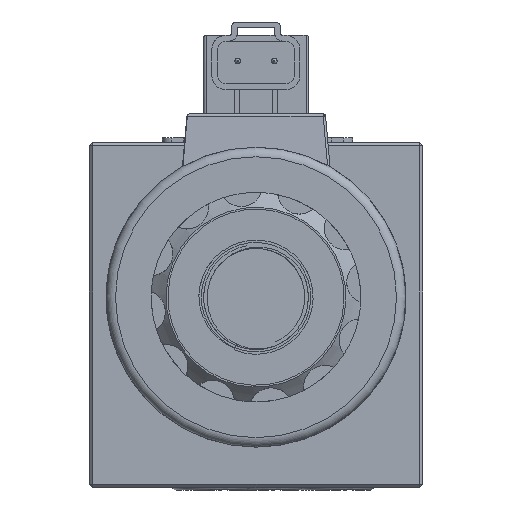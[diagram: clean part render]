
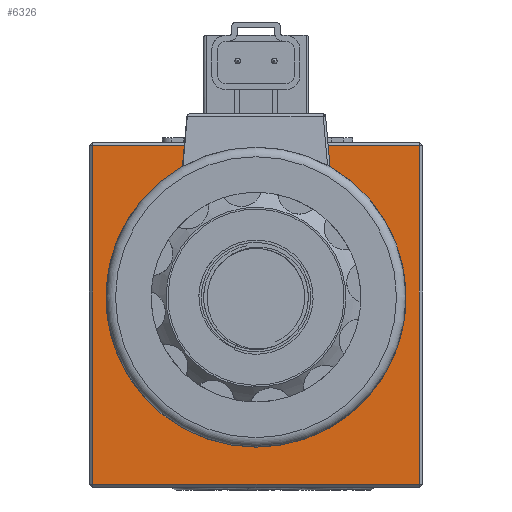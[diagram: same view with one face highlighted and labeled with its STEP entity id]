
A CAD part, left-side view. The second image highlights one B-rep face of the part: STEP entity #6326.
In plain terms, the highlighted planar face has unit normal (-1, 0, 0).
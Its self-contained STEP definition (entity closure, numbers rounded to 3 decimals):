
#3047=LINE('',#30580,#4169);
#3048=LINE('',#30583,#4170);
#3049=LINE('',#30585,#4171);
#3050=LINE('',#30587,#4172);
#4169=VECTOR('',#21099,1.);
#4170=VECTOR('',#21100,1.);
#4171=VECTOR('',#21101,1.);
#4172=VECTOR('',#21102,1.);
#6326=ADVANCED_FACE('',(#8113,#8114,#8115,#8116),#7077,.T.);
#7077=PLANE('',#18429);
#8113=FACE_BOUND('',#9053,.T.);
#8114=FACE_BOUND('',#9054,.T.);
#8115=FACE_BOUND('',#9055,.T.);
#8116=FACE_BOUND('',#9056,.T.);
#9053=EDGE_LOOP('',(#11152));
#9054=EDGE_LOOP('',(#11153));
#9055=EDGE_LOOP('',(#11154));
#9056=EDGE_LOOP('',(#11155,#11156,#11157,#11158));
#11152=ORIENTED_EDGE('',*,*,#15900,.T.);
#11153=ORIENTED_EDGE('',*,*,#15901,.T.);
#11154=ORIENTED_EDGE('',*,*,#15902,.T.);
#11155=ORIENTED_EDGE('',*,*,#15903,.T.);
#11156=ORIENTED_EDGE('',*,*,#15904,.T.);
#11157=ORIENTED_EDGE('',*,*,#15905,.T.);
#11158=ORIENTED_EDGE('',*,*,#15906,.T.);
#14371=VERTEX_POINT('',#30575);
#14372=VERTEX_POINT('',#30577);
#14373=VERTEX_POINT('',#30579);
#14374=VERTEX_POINT('',#30581);
#14375=VERTEX_POINT('',#30582);
#14376=VERTEX_POINT('',#30584);
#14377=VERTEX_POINT('',#30586);
#15900=EDGE_CURVE('',#14371,#14371,#17438,.T.);
#15901=EDGE_CURVE('',#14372,#14372,#17439,.T.);
#15902=EDGE_CURVE('',#14373,#14373,#17440,.T.);
#15903=EDGE_CURVE('',#14374,#14375,#3047,.T.);
#15904=EDGE_CURVE('',#14375,#14376,#3048,.T.);
#15905=EDGE_CURVE('',#14376,#14377,#3049,.T.);
#15906=EDGE_CURVE('',#14377,#14374,#3050,.T.);
#17438=CIRCLE('',#18426,1.8);
#17439=CIRCLE('',#18427,1.8);
#17440=CIRCLE('',#18428,1.8);
#18426=AXIS2_PLACEMENT_3D('',#30574,#21093,#21094);
#18427=AXIS2_PLACEMENT_3D('',#30576,#21095,#21096);
#18428=AXIS2_PLACEMENT_3D('',#30578,#21097,#21098);
#18429=AXIS2_PLACEMENT_3D('',#30588,#21103,#21104);
#21093=DIRECTION('',(1.,0.,0.));
#21094=DIRECTION('',(0.,0.,-1.));
#21095=DIRECTION('',(1.,0.,0.));
#21096=DIRECTION('',(0.,0.,-1.));
#21097=DIRECTION('',(1.,0.,0.));
#21098=DIRECTION('',(0.,0.,-1.));
#21099=DIRECTION('',(0.,0.,1.));
#21100=DIRECTION('',(0.,1.,0.));
#21101=DIRECTION('',(0.,0.,-1.));
#21102=DIRECTION('',(0.,-1.,0.));
#21103=DIRECTION('',(-1.,0.,0.));
#21104=DIRECTION('',(0.,0.,-1.));
#30574=CARTESIAN_POINT('',(0.,54.,-32.5));
#30575=CARTESIAN_POINT('',(0.,54.,-34.3));
#30576=CARTESIAN_POINT('',(0.,35.,-51.5));
#30577=CARTESIAN_POINT('',(0.,35.,-53.3));
#30578=CARTESIAN_POINT('',(0.,16.,-32.5));
#30579=CARTESIAN_POINT('',(0.,16.,-34.3));
#30580=CARTESIAN_POINT('',(0.,0.7,-72.5));
#30581=CARTESIAN_POINT('',(0.,0.7,-71.8));
#30582=CARTESIAN_POINT('',(0.,0.7,-0.7));
#30583=CARTESIAN_POINT('',(0.,70.,-0.7));
#30584=CARTESIAN_POINT('',(0.,69.3,-0.7));
#30585=CARTESIAN_POINT('',(0.,69.3,-72.5));
#30586=CARTESIAN_POINT('',(0.,69.3,-71.8));
#30587=CARTESIAN_POINT('',(0.,0.,-71.8));
#30588=CARTESIAN_POINT('',(0.,70.,-72.5));
